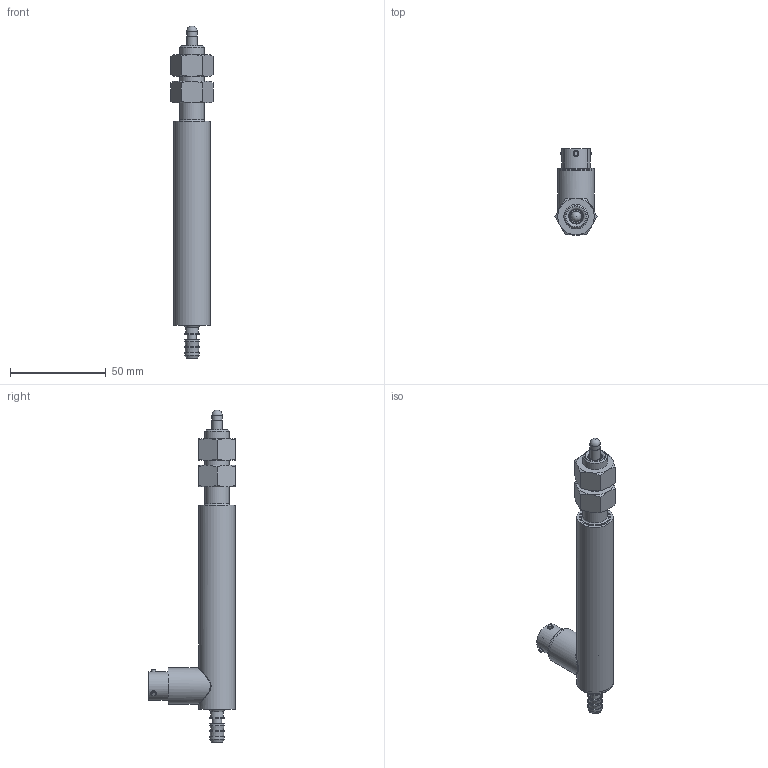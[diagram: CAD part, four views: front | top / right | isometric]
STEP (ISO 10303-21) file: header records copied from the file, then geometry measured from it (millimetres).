
FILE_DESCRIPTION(/* description */ (''),/* implementation_level */ '2;1');
FILE_NAME(/* name */ 'GHRA-750-I-500 ASS''Y.step',/* time_stamp */ '2023-09-01T12:43:09-04:00',/* author */ ('J. Nielson'),/* organization */ (''),/* preprocessor_version */ 'ST-DEVELOPER v19.2',/* originating_system */ 'Autodesk Inventor 2024',/* authorisation */ '');
FILE_SCHEMA (('AUTOMOTIVE_DESIGN { 1 0 10303 214 3 1 1 }','FEATURE_BASED_PROCESS_PLANNING'));
Length unit declared in the file: inch
Products named in the file (4): GHRA-750-E-500; GHR-750-D-125 HOUSING ASSEMBLY_Shrinkwrap_1; GHR-750-E-125 SHAFT ASSEMBLY_SW; AS 2465 - 1/2  UNF
Assembly tree (4 placements, depth 2):
  GHRA-750-E-500
    GHR-750-D-125 HOUSING ASSEMBLY_Shrinkwrap_1
    GHR-750-E-125 SHAFT ASSEMBLY_SW
    AS 2465 - 1/2  UNF  x2
Bounding box: 22 x 45.24 x 173.61 mm (x, y, z)
Volume: 22549.2 mm3; surface area: 25985.3 mm2
Topology: 17 solids, 17 shells, 228 faces, 458 edges, 296 vertices
Faces by surface type: plane 92, cylinder 75, cone 47, bspline 8, torus 5, sphere 1
Full cylindrical faces by diameter (mm): 0.762 x12, 2.032 x3, 2.845 x3, 3.048 x3, 4.762 x1, 4.826 x2, 5.334 x4, 5.397 x1, 6 x1, 6.731 x1, 7.493 x4, 7.671 x2, 7.874 x2, 11.328 x2, 12.7 x1, 13.208 x1, 14.986 x1, 15.748 x2, 16.51 x1, 17.018 x1, 17.069 x1, 17.78 x1, 18.034 x1, 18.415 x6, 19.05 x2
Entity records: 7736 total; most frequent: CARTESIAN_POINT 2977, DIRECTION 967, ORIENTED_EDGE 812, AXIS2_PLACEMENT_3D 414, EDGE_CURVE 406, VERTEX_POINT 267, EDGE_LOOP 265, FACE_OUTER_BOUND 205
